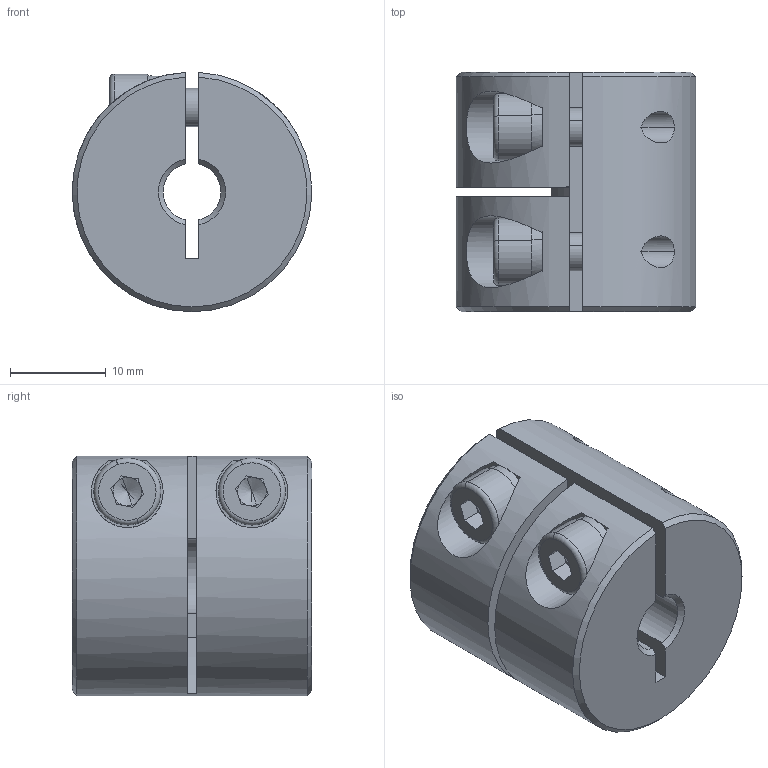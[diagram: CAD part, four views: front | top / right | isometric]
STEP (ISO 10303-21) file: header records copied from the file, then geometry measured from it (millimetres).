
FILE_DESCRIPTION (( 'STEP AP203' ), '1' );
FILE_NAME ('LL-B-D25L25-6-8.STEP', '2021-11-05T06:30:39', ( '' ), ( '' ), 'SwSTEP 2.0', 'SolidWorks 2018', '' );
FILE_SCHEMA (( 'CONFIG_CONTROL_DESIGN' ));
Length unit declared in the file: millimetre
Products named in the file (1): LL-B-D25L25-6-8
Bounding box: 24.99 x 25 x 24.98 mm (x, y, z)
Volume: 10463.2 mm3; surface area: 4957.8 mm2
Topology: 1 solids, 1 shells, 104 faces, 270 edges, 170 vertices
Faces by surface type: plane 52, cylinder 37, cone 11, torus 4
Entity records: 3471 total; most frequent: CARTESIAN_POINT 815, DIRECTION 560, ORIENTED_EDGE 532, EDGE_CURVE 266, AXIS2_PLACEMENT_3D 215, VERTEX_POINT 170, VECTOR 130, LINE 130
